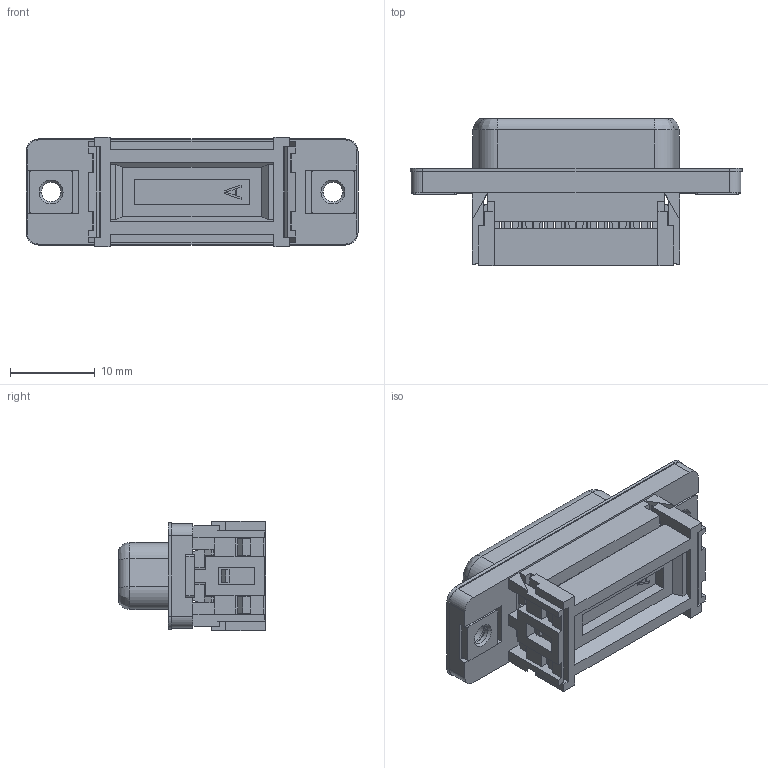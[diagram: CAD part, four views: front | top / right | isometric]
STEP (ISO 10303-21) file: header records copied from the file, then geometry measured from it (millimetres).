
FILE_DESCRIPTION((''),'2;1');
FILE_NAME('DB-F-CNC-OUT_ASM','2016-11-07T',('Administrator'),(''),'PRO/ENGINEER BY PARAMETRIC TECHNOLOGY CORPORATION, 2001280','PRO/ENGINEER BY PARAMETRIC TECHNOLOGY CORPORATION, 2001280','');
FILE_SCHEMA(('CONFIG_CONTROL_DESIGN'));
Length unit declared in the file: millimetre
Products named in the file (6): DB-F-H-CNC; DB-F-M-CNC; DB-F-T-CNC; DB-F-SH-CNC; DB-F-SW-CNC; DB-F-CNC-OUT_ASM
Assembly tree (5 placements, depth 2):
  DB-F-CNC-OUT_ASM
    DB-F-H-CNC
    DB-F-M-CNC
    DB-F-T-CNC
    DB-F-SH-CNC
    DB-F-SW-CNC
Bounding box: 39.1 x 17.33 x 12.85 mm (x, y, z)
Volume: 3698 mm3; surface area: 6942.1 mm2
Topology: 21 solids, 21 shells, 2451 faces, 6173 edges, 3792 vertices
Faces by surface type: plane 1667, cylinder 448, cone 162, torus 106, bspline 68
Entity records: 73927 total; most frequent: CARTESIAN_POINT 14599, ORIENTED_EDGE 12346, DIRECTION 12305, EDGE_CURVE 6173, VECTOR 4705, LINE 4705, AXIS2_PLACEMENT_3D 3800, VERTEX_POINT 3792
